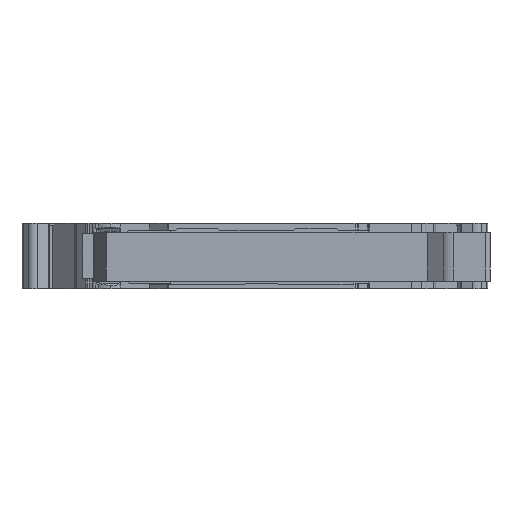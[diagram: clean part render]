
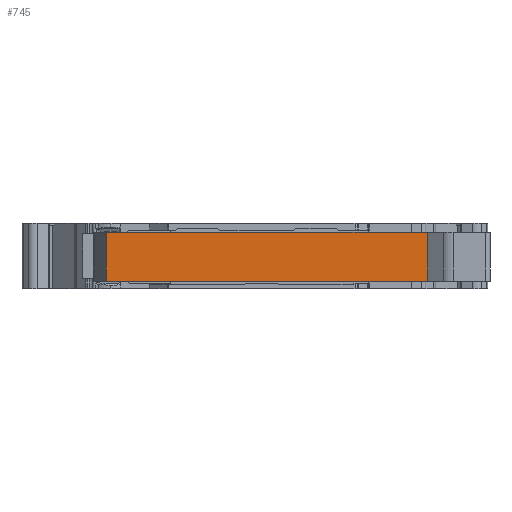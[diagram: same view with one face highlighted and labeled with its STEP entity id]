
A CAD part, left-side view. The second image highlights one B-rep face of the part: STEP entity #745.
In plain terms, the highlighted planar face has unit normal (-1, 0, 0).
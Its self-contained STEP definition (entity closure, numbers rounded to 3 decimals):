
#35=CARTESIAN_POINT('',(-57.982,82.805,-1.1));
#36=VERTEX_POINT('',#35);
#228=CARTESIAN_POINT('',(-57.982,122.728,-1.1));
#229=VERTEX_POINT('',#228);
#236=CARTESIAN_POINT('',(-57.982,122.728,-1.1));
#237=DIRECTION('',(0.,-1.,0.));
#238=VECTOR('',#237,39.923);
#239=LINE('',#236,#238);
#240=EDGE_CURVE('',#229,#36,#239,.T.);
#337=CARTESIAN_POINT('',(-57.982,82.805,-7.2));
#338=VERTEX_POINT('',#337);
#339=CARTESIAN_POINT('',(-57.982,122.728,-7.2));
#340=VERTEX_POINT('',#339);
#341=CARTESIAN_POINT('',(-57.982,82.805,-7.2));
#342=DIRECTION('',(0.,1.,0.));
#343=VECTOR('',#342,39.923);
#344=LINE('',#341,#343);
#345=EDGE_CURVE('',#338,#340,#344,.T.);
#724=CARTESIAN_POINT('',(-57.982,102.213,-4.15));
#725=DIRECTION('',(0.,1.,0.));
#726=DIRECTION('',(-1.,0.,0.));
#727=AXIS2_PLACEMENT_3D('',#724,#726,#725);
#728=PLANE('',#727);
#729=CARTESIAN_POINT('',(-57.982,82.805,-7.2));
#730=DIRECTION('',(0.,0.,1.));
#731=VECTOR('',#730,6.1);
#732=LINE('',#729,#731);
#733=EDGE_CURVE('',#338,#36,#732,.T.);
#734=ORIENTED_EDGE('E77',*,*,#733,.T.);
#735=ORIENTED_EDGE('E77',*,*,#240,.F.);
#736=CARTESIAN_POINT('',(-57.982,122.728,-1.1));
#737=DIRECTION('',(0.,0.,-1.));
#738=VECTOR('',#737,6.1);
#739=LINE('',#736,#738);
#740=EDGE_CURVE('',#229,#340,#739,.T.);
#741=ORIENTED_EDGE('E78',*,*,#740,.T.);
#742=ORIENTED_EDGE('E78',*,*,#345,.F.);
#743=EDGE_LOOP('',(#734,#735,#741,#742));
#744=FACE_OUTER_BOUND('',#743,.T.);
#745=ADVANCED_FACE('F8',(#744),#728,.T.);
